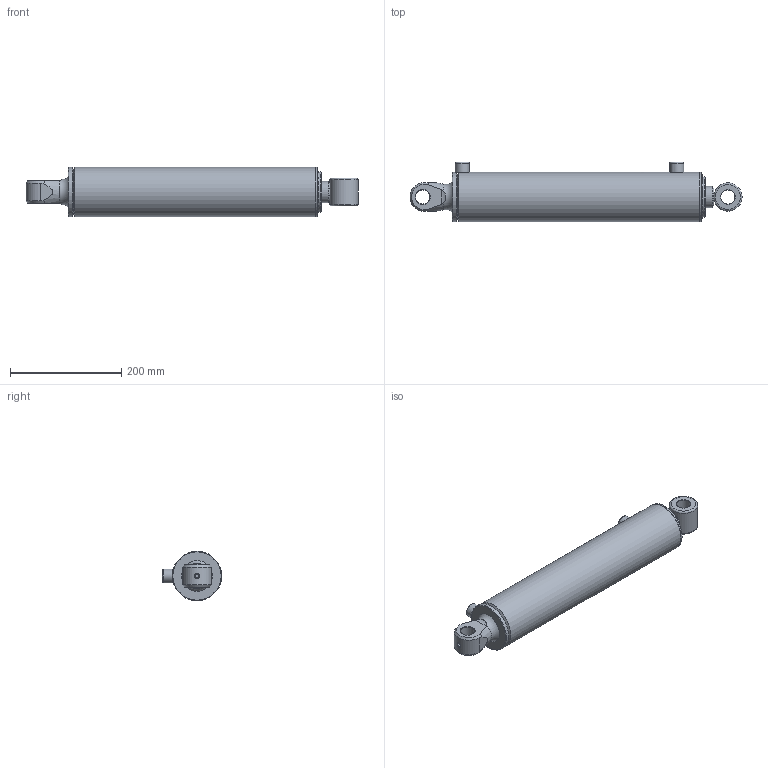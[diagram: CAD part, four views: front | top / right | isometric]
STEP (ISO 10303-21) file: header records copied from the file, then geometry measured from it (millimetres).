
FILE_DESCRIPTION(/* description */ ('Alibre Inc.'),/* implementation_level */ '2;1');
FILE_NAME(/* name */ 'export0',/* time_stamp */ '2016-08-16T10:00:48+12:00',/* author */ (''),/* organization */ (''),/* preprocessor_version */ 'ST-DEVELOPER v14',/* originating_system */ 'Alibre',/* authorisation */ '');
FILE_SCHEMA (('AUTOMOTIVE_DESIGN'));
Length unit declared in the file: centimetre
Bounding box: 598.13 x 106.9 x 88.9 mm (x, y, z)
Volume: 1749741.4 mm3; surface area: 400065.4 mm2
Topology: 12 solids, 12 shells, 157 faces, 332 edges, 209 vertices
Faces by surface type: cylinder 61, plane 57, cone 23, torus 13, sphere 2, bspline 1
Full cylindrical faces by diameter (mm): 7 x1, 8.3 x2, 8.8 x1, 9.525 x2, 15.25 x2, 23 x1, 23.622 x1, 25 x2, 25.4 x2, 25.451 x1, 38.1 x2, 38.18 x2, 44.45 x1, 46.9 x2, 47.62 x2, 50.8 x1, 60.33 x1, 69.2 x1, 70.36 x1, 71.6 x2, 72.57 x2, 72.87 x1, 74.83 x2, 76.09 x2, 76.1 x1, 76.2 x2, 79.4 x1, 88.9 x3
Entity records: 4365 total; most frequent: CARTESIAN_POINT 1210, DIRECTION 599, ORIENTED_EDGE 456, AXIS2_PLACEMENT_3D 310, FACE_BOUND 271, EDGE_LOOP 269, EDGE_CURVE 228, VERTEX_POINT 191
